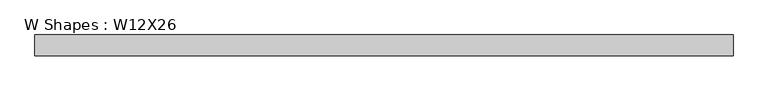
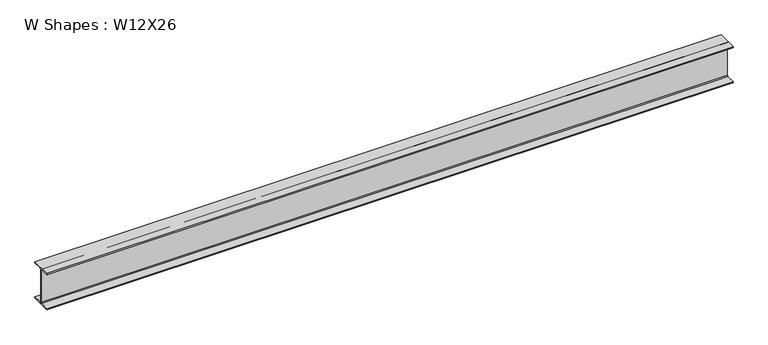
"""IFC4 building model written with IfcOpenShell, lengths in millimetres: beam geometry, W Shapes : W12X26."""

from ifc_helpers import new_model, si_unit, point, frame, frame_2d, origin, place, context, project, spatial, polyline, circle_curve, trimmed, segment, composite_curve, outline, extrude, source, transform, mapped, element, save


def w_shapes_w12x26_13ab2ca8(model_context):
    return source(origin(), model_context, "Body", "SweptSolid", [
        extrude(outline(composite_curve([segment(polyline([(82.423, -145.288), (82.423, -154.94), (-82.423, -154.94), (-82.423, -145.288), (-10.541, -145.288)]), True, "CONTINUOUS"), segment(trimmed(circle_curve(frame_2d((-10.541, -137.668)), 7.62), [point((-10.541, -145.288))], [point((-2.921, -137.668))], True, "CARTESIAN"), True, "CONTINUOUS"), segment(polyline([(-2.921, -137.668), (-2.921, 137.668)]), True, "CONTINUOUS"), segment(trimmed(circle_curve(frame_2d((-10.541, 137.668)), 7.62), [point((-2.921, 137.668))], [point((-10.541, 145.288))], True, "CARTESIAN"), True, "CONTINUOUS"), segment(polyline([(-10.541, 145.288), (-82.423, 145.288), (-82.423, 154.94), (82.423, 154.94), (82.423, 145.288), (10.541, 145.288)]), True, "CONTINUOUS"), segment(trimmed(circle_curve(frame_2d((10.541, 137.668)), 7.62), [point((10.541, 145.288))], [point((2.921, 137.668))], True, "CARTESIAN"), True, "CONTINUOUS"), segment(polyline([(2.921, 137.668), (2.921, -137.668)]), True, "CONTINUOUS"), segment(trimmed(circle_curve(frame_2d((10.541, -137.668)), 7.62), [point((2.921, -137.668))], [point((10.541, -145.288))], True, "CARTESIAN"), True, "CONTINUOUS"), segment(polyline([(10.541, -145.288), (82.423, -145.288)]), True, "CONTINUOUS")], self_intersect=False)), frame((-2773.6165, 0.0, 0.0), z_axis=(1.0, 0.0, 0.0), x_axis=(0.0, 1.0, 0.0)), (0.0, 0.0, 1.0), 5547.233),
    ])


if __name__ == "__main__":
    model = new_model("IFC4")
    model_context = context("Model", 3, world=origin())
    ifc_project = project(units=[si_unit("LENGTHUNIT", "METRE", prefix="MILLI")], contexts=[model_context])
    site = spatial("IfcSite", under=ifc_project)
    building = spatial("IfcBuilding", under=site)
    placement = place(None, origin())
    w_shapes_w12x26_shape = w_shapes_w12x26_13ab2ca8(model_context)
    element("IfcBeam", 1, ObjectType="W Shapes : W12X26", at=placement, inside=building, context=model_context, shape_type="MappedRepresentation", body=[
        mapped(w_shapes_w12x26_shape, transform((0.0, 0.0, 0.0), x_axis=(1.0, 0.0, 0.0), y_axis=(0.0, 1.0, 0.0), z_axis=(0.0, 0.0, 1.0))),
    ])
    save(model, "model.ifc")
